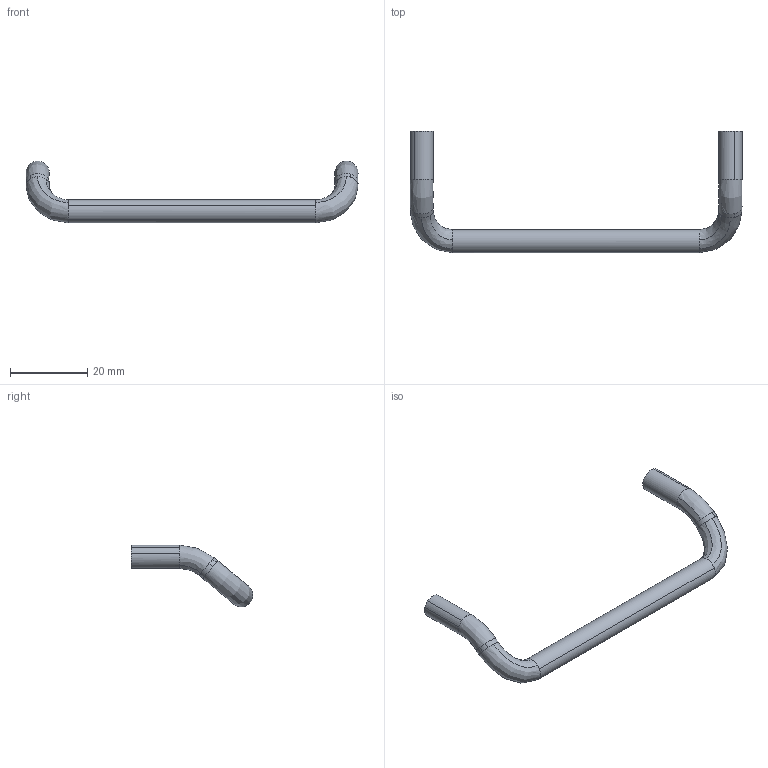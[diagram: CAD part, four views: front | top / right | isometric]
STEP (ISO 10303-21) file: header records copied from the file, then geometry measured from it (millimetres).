
FILE_DESCRIPTION((''),'2;1');
FILE_NAME('','2005-10-07T12:03:06',(''),(''),'','CADfix','');
FILE_SCHEMA(('AUTOMOTIVE_DESIGN'));
Length unit declared in the file: millimetre
Products named in the file (1): pull
Bounding box: 86 x 31.5 x 16 mm (x, y, z)
Volume: 3679.4 mm3; surface area: 2793.6 mm2
Topology: 1 solids, 1 shells, 26 faces, 90 edges, 68 vertices
Faces by surface type: bspline 26
Entity records: 1661 total; most frequent: CARTESIAN_POINT 1173, ORIENTED_EDGE 180, EDGE_CURVE 90, VERTEX_POINT 68, EDGE_LOOP 28, FACE_OUTER_BOUND 26, ADVANCED_FACE 26, B_SPLINE_CURVE_WITH_KNOTS 24
